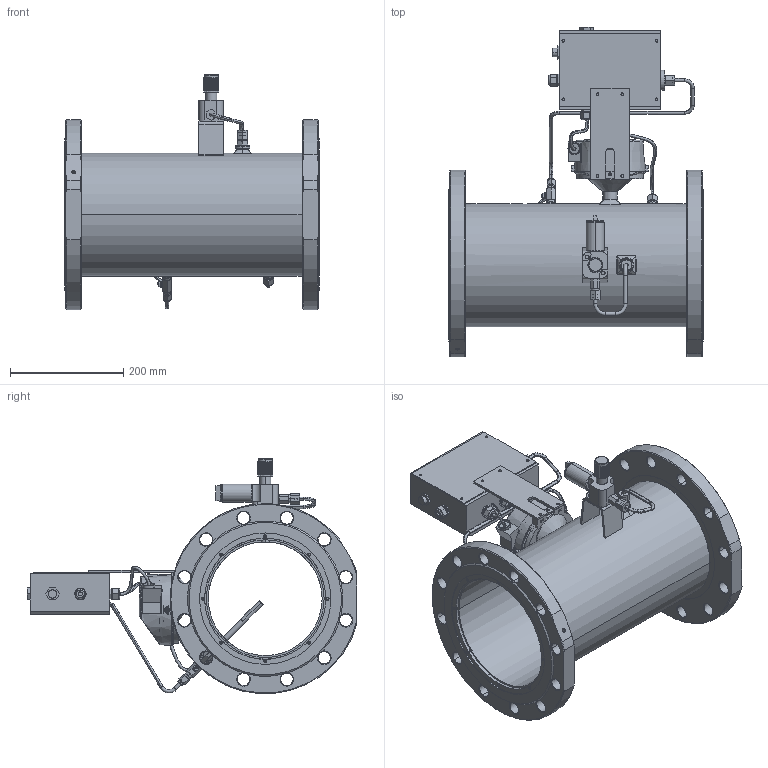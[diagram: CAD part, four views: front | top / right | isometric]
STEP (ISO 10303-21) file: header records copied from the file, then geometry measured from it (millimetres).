
FILE_DESCRIPTION((''),'2;1');
FILE_NAME('SG_SUPERFLOW_DY200_R_ASM','2020-12-23T',('solovki'),(''),'CREO PARAMETRIC BY PTC INC, 2018360','CREO PARAMETRIC BY PTC INC, 2018360','');
FILE_SCHEMA(('AUTOMOTIVE_DESIGN { 1 0 10303 214 1 1 1 1 }'));
Length unit declared in the file: millimetre
Products named in the file (28): 403_AF5; 404_AF3; 405_AF3; 406_AF1; 407_AF1; 408_AF3; 408_AF2; 409_AF1; 402_AF3_ASM; 410; 411; 412; 413; 414; 415; 401_AF0_ASM; 418; 419; 420; 421; 422; 423; 424; 425; 426; 427; 428; SG_SUPERFLOW_DY200_R_ASM
Assembly tree (30 placements, depth 4):
  SG_SUPERFLOW_DY200_R_ASM
    401_AF0_ASM
      402_AF3_ASM
        403_AF5
        404_AF3
        405_AF3
        406_AF1
        407_AF1
        408_AF3
        408_AF2
        409_AF1
      410
      411
      412
      413
      414  x2
      415
    418
    419
    420
    421
    422
    423
    414
    424
    425
    426  x2
    427
    428
Bounding box: 450 x 582.5 x 415.11 mm (x, y, z)
Volume: 7189243.1 mm3; surface area: 1333650.5 mm2
Topology: 28 solids, 62 shells, 1441 faces, 3536 edges, 2216 vertices
Faces by surface type: cylinder 542, plane 538, cone 247, torus 49, bspline 42, sphere 22, extrusion 1
Entity records: 66854 total; most frequent: CARTESIAN_POINT 11999, DIRECTION 7320, ORIENTED_EDGE 6562, PRESENTATION_STYLE_ASSIGNMENT 4773, STYLED_ITEM 4773, EDGE_CURVE 3362, CURVE_STYLE 3351, AXIS2_PLACEMENT_3D 2861
